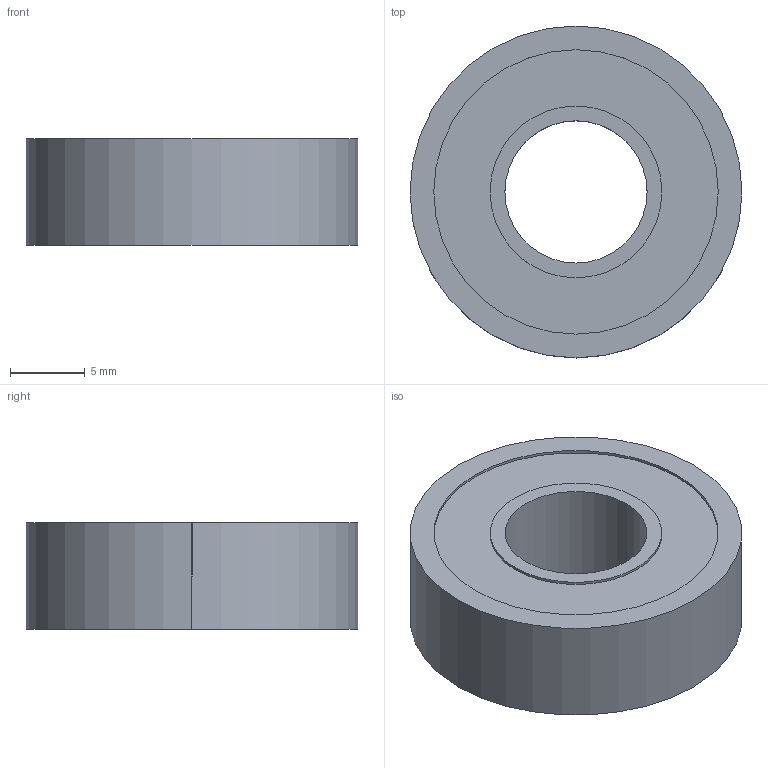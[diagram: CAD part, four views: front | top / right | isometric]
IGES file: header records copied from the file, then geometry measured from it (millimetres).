
Global section: file name: C:\Documents and Settings\Administrator\My Documents\FIRST Project\bearing0375.igs; native system: AutoDesk Inventor R2.0 ; preprocessor: AutoDesk Inventor Iges Exporter R2.0; author: No Author specified; organization: No Organization specified; date: 20011206.210048; units: inch
Bounding box: 22.23 x 22.23 x 7.11 mm (x, y, z)
Surface area: 1376.9 mm2 (no closed solid volume)
Topology: 0 solids, 0 shells, 18 faces, 72 edges, 72 vertices
Faces by surface type: revolution 12, bspline 6
